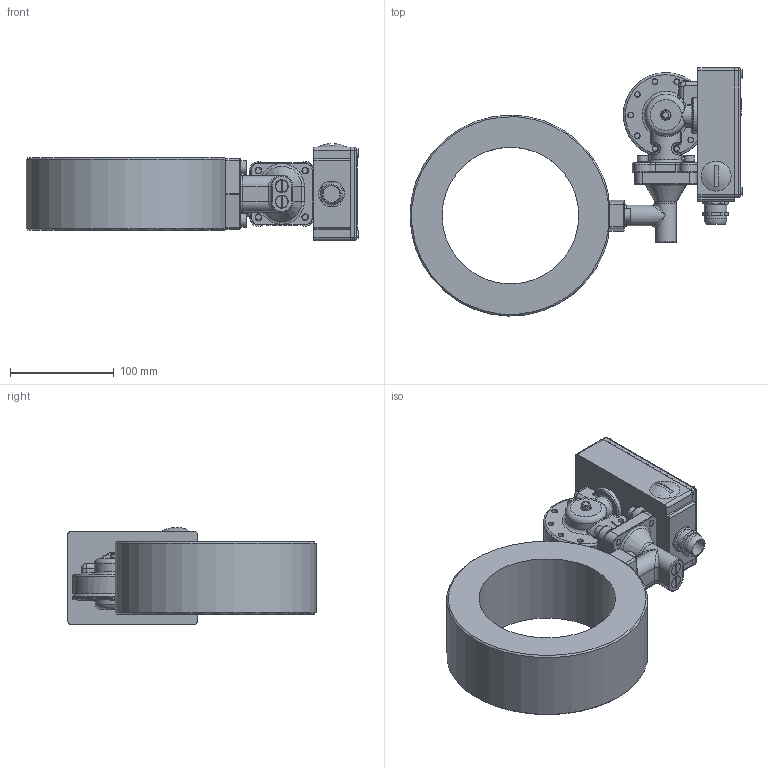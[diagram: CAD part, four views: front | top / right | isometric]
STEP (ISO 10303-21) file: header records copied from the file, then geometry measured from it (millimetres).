
FILE_DESCRIPTION(/* description */ ('Alibre Inc.'),/* implementation_level */ '2;1');
FILE_NAME(/* name */ 'export0',/* time_stamp */ '2012-10-15T13:33:13+02:00',/* author */ (''),/* organization */ (''),/* preprocessor_version */ 'ST-DEVELOPER v14',/* originating_system */ 'Alibre',/* authorisation */ '');
FILE_SCHEMA (('CONFIG_CONTROL_DESIGN'));
Length unit declared in the file: centimetre
Products named in the file (13): ID_1; ID_2; ID_3; ID_4; ID_5; ID_6; ID_7; ID_8
Bounding box: 320.5 x 239.54 x 93.66 mm (x, y, z)
Volume: 1499092.2 mm3; surface area: 273581.2 mm2
Topology: 29 solids, 29 shells, 1094 faces, 2578 edges, 1625 vertices
Faces by surface type: plane 540, cylinder 251, bspline 168, torus 65, cone 65, sphere 5
Full cylindrical faces by diameter (mm): 5 x23, 5.5 x18, 6 x12, 6.038 x2, 6.5 x4, 7.5 x1, 8 x18, 8.3 x9, 8.5 x2, 8.7 x2, 9.6 x4, 10 x4, 11.75 x2, 11.85 x1, 12 x2, 13 x2, 14 x2, 16 x1, 17.966 x1, 22 x2, 22.5 x4, 31 x1, 32 x1, 47 x1, 56 x2, 132 x1
Entity records: 34395 total; most frequent: CARTESIAN_POINT 14007, ORIENTED_EDGE 3926, DIRECTION 3183, EDGE_CURVE 1963, VERTEX_POINT 1311, AXIS2_PLACEMENT_3D 1303, EDGE_LOOP 1144, FACE_BOUND 1144
